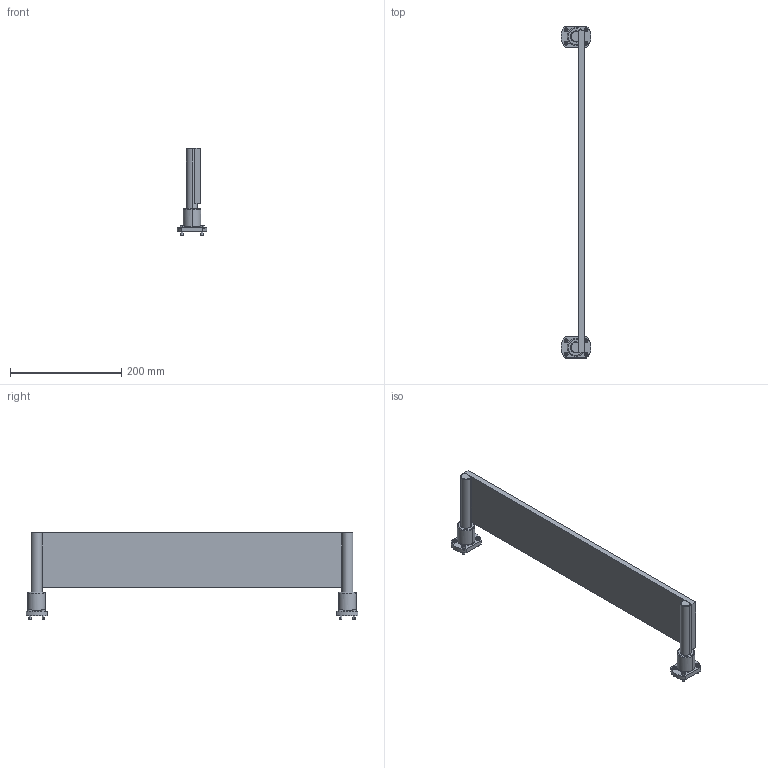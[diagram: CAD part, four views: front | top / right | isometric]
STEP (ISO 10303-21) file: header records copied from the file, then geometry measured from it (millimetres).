
FILE_DESCRIPTION(('CATIA V5 STEP Exchange','CAx-IF Rec.Pracs.--- Model Styling and Organization---1.4--- 2014-01-23','CAx-IF Rec.Pracs.---3D Tessellated Data Validation Properties---0.5---2014-09-14'),'2;1');
FILE_NAME('C:\Users\Administrator\Desktop\10-14 작업\SmartFactory_FruitWasherStopper\Stopper.stp','2024-10-14T01:54:50+00:00',('none'),('none'),'CATIA Unofficial Packaging Version','3DEXPERIENCE Platform STEP AP242 v1','none');
FILE_SCHEMA(('AP242_MANAGED_MODEL_BASED_3D_ENGINEERING_MIM_LF {1 0 10303 442 1 1 4}'));
Length unit declared in the file: millimetre
Products named in the file (6): Stopper; 61-07_Plate_580X100X10_AL6061; 61-08_Shaft_Pi20X150L; LHFC-N20.catpart; WrenchBolt_M4-15L_Stopper; Gathered WrenchBolt_M4-15L_Stopper on RectPattern.1
Assembly tree (20 placements, depth 3):
  Stopper
    61-07_Plate_580X100X10_AL6061
    61-08_Shaft_Pi20X150L  x2
    LHFC-N20.catpart  x2
    WrenchBolt_M4-15L_Stopper  x8
    Gathered WrenchBolt_M4-15L_Stopper on RectPattern.1
      WrenchBolt_M4-15L_Stopper  x6
Bounding box: 53.91 x 598 x 157 mm (x, y, z)
Volume: 718828.7 mm3; surface area: 177884.7 mm2
Topology: 19 solids, 19 shells, 434 faces, 942 edges, 586 vertices
Faces by surface type: plane 180, cylinder 144, cone 78, torus 32
Entity records: 3840 total; most frequent: CARTESIAN_POINT 1208, ORIENTED_EDGE 510, DIRECTION 427, EDGE_CURVE 255, AXIS2_PLACEMENT_3D 215, VERTEX_POINT 165, EDGE_LOOP 154, ADVANCED_FACE 115
